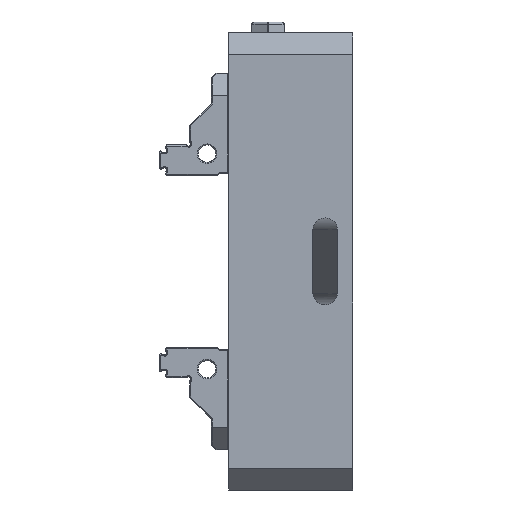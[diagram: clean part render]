
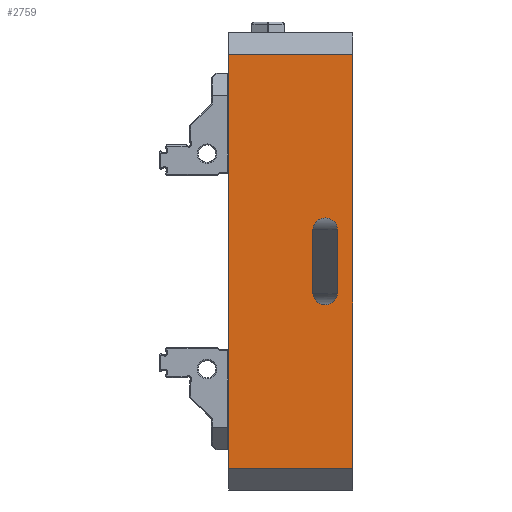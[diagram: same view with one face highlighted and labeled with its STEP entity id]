
A CAD part, left-side view. The second image highlights one B-rep face of the part: STEP entity #2759.
In plain terms, the highlighted planar face has unit normal (-1, 0, 0).
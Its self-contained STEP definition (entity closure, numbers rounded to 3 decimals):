
#680=ELLIPSE('',#29747,5.587,5.25);
#681=ELLIPSE('',#29748,5.587,5.25);
#1367=FACE_BOUND('',#6854,.T.);
#1368=FACE_BOUND('',#6855,.T.);
#2759=ADVANCED_FACE('',(#1367,#1368),#4307,.F.);
#4307=PLANE('',#29749);
#6854=EDGE_LOOP('',(#9067,#9068,#9069,#9070));
#6855=EDGE_LOOP('',(#9071,#9072,#9073,#9074));
#9067=ORIENTED_EDGE('',*,*,#20203,.T.);
#9068=ORIENTED_EDGE('',*,*,#20204,.T.);
#9069=ORIENTED_EDGE('',*,*,#20205,.T.);
#9070=ORIENTED_EDGE('',*,*,#20206,.T.);
#9071=ORIENTED_EDGE('',*,*,#20207,.T.);
#9072=ORIENTED_EDGE('',*,*,#19995,.F.);
#9073=ORIENTED_EDGE('',*,*,#20208,.T.);
#9074=ORIENTED_EDGE('',*,*,#20209,.T.);
#17136=VERTEX_POINT('',#40087);
#17137=VERTEX_POINT('',#40089);
#17330=VERTEX_POINT('',#40738);
#17331=VERTEX_POINT('',#40739);
#17332=VERTEX_POINT('',#40741);
#17333=VERTEX_POINT('',#40743);
#17334=VERTEX_POINT('',#40746);
#17335=VERTEX_POINT('',#40748);
#19995=EDGE_CURVE('',#17136,#17137,#24156,.T.);
#20203=EDGE_CURVE('',#17330,#17331,#24325,.T.);
#20204=EDGE_CURVE('',#17331,#17332,#680,.T.);
#20205=EDGE_CURVE('',#17332,#17333,#24326,.T.);
#20206=EDGE_CURVE('',#17333,#17330,#681,.T.);
#20207=EDGE_CURVE('',#17334,#17137,#24327,.T.);
#20208=EDGE_CURVE('',#17136,#17335,#24328,.T.);
#20209=EDGE_CURVE('',#17335,#17334,#24329,.T.);
#24156=LINE('',#40088,#26880);
#24325=LINE('',#40737,#27049);
#24326=LINE('',#40742,#27050);
#24327=LINE('',#40745,#27051);
#24328=LINE('',#40747,#27052);
#24329=LINE('',#40749,#27053);
#26880=VECTOR('',#32321,1.);
#27049=VECTOR('',#32538,1.);
#27050=VECTOR('',#32541,1.);
#27051=VECTOR('',#32544,1.);
#27052=VECTOR('',#32545,1.);
#27053=VECTOR('',#32546,1.);
#29747=AXIS2_PLACEMENT_3D('',#40740,#32539,#32540);
#29748=AXIS2_PLACEMENT_3D('',#40744,#32542,#32543);
#29749=AXIS2_PLACEMENT_3D('',#40750,#32547,#32548);
#32321=DIRECTION('',(0.,0.,-1.));
#32538=DIRECTION('',(0.,0.,-1.));
#32539=DIRECTION('',(1.,0.,0.));
#32540=DIRECTION('',(0.,-1.,0.));
#32541=DIRECTION('',(0.,0.,1.));
#32542=DIRECTION('',(1.,0.,0.));
#32543=DIRECTION('',(0.,1.,0.));
#32544=DIRECTION('',(0.,-1.,0.));
#32545=DIRECTION('',(0.,1.,0.));
#32546=DIRECTION('',(0.,0.,-1.));
#32547=DIRECTION('',(1.,0.,0.));
#32548=DIRECTION('',(0.,0.,-1.));
#40087=CARTESIAN_POINT('',(1331.552,691.136,500.));
#40088=CARTESIAN_POINT('',(1331.552,691.136,300.));
#40089=CARTESIAN_POINT('',(1331.552,691.136,310.));
#40737=CARTESIAN_POINT('',(1331.552,698.291,300.));
#40738=CARTESIAN_POINT('',(1331.552,698.291,419.75));
#40739=CARTESIAN_POINT('',(1331.552,698.291,390.25));
#40740=CARTESIAN_POINT('',(1331.552,703.878,390.25));
#40741=CARTESIAN_POINT('',(1331.552,709.465,390.25));
#40742=CARTESIAN_POINT('',(1331.552,709.465,300.));
#40743=CARTESIAN_POINT('',(1331.552,709.465,419.75));
#40744=CARTESIAN_POINT('',(1331.552,703.878,419.75));
#40745=CARTESIAN_POINT('',(1331.552,748.136,310.));
#40746=CARTESIAN_POINT('',(1331.552,748.136,310.));
#40747=CARTESIAN_POINT('',(1331.552,748.136,500.));
#40748=CARTESIAN_POINT('',(1331.552,748.136,500.));
#40749=CARTESIAN_POINT('',(1331.552,748.136,300.));
#40750=CARTESIAN_POINT('',(1331.552,748.136,300.));
